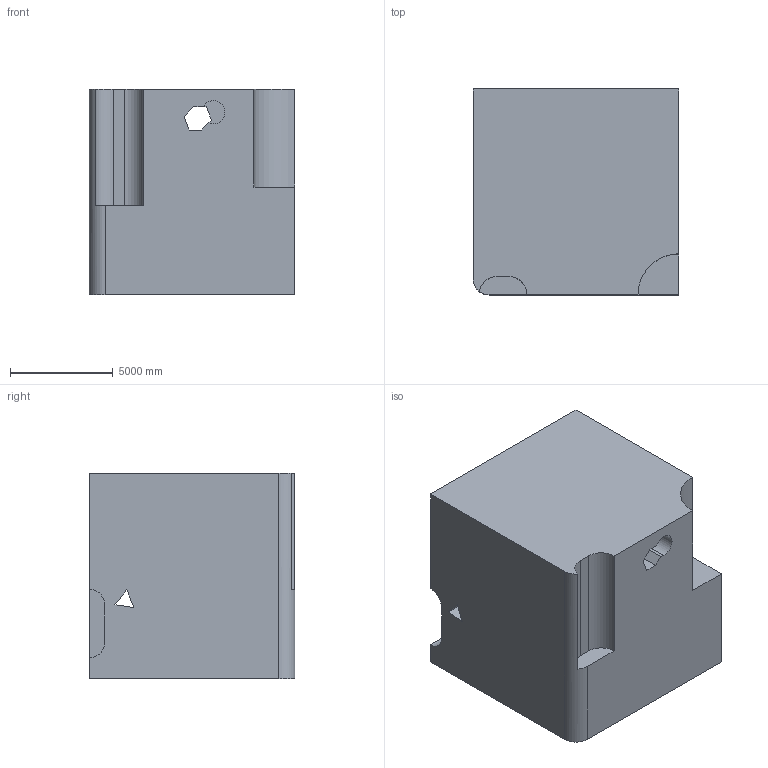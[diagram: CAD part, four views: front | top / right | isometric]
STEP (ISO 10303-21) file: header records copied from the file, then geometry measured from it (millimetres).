
FILE_DESCRIPTION (( 'STEP AP203' ), '1' );
FILE_NAME ('77.STEP', '2022-08-30T14:24:35', ( 'user' ), ( '' ), 'SwSTEP 2.0', 'SolidWorks 2021', '' );
FILE_SCHEMA (( 'CONFIG_CONTROL_DESIGN' ));
Length unit declared in the file: centimetre
Products named in the file (1): 77
Bounding box: 10000 x 10000 x 10000 mm (x, y, z)
Volume: 927993638535.5 mm3; surface area: 695471038.3 mm2
Topology: 1 solids, 1 shells, 34 faces, 96 edges, 64 vertices
Faces by surface type: plane 25, cylinder 9
Entity records: 1184 total; most frequent: CARTESIAN_POINT 195, ORIENTED_EDGE 192, DIRECTION 185, EDGE_CURVE 96, VECTOR 77, LINE 77, VERTEX_POINT 64, AXIS2_PLACEMENT_3D 54
